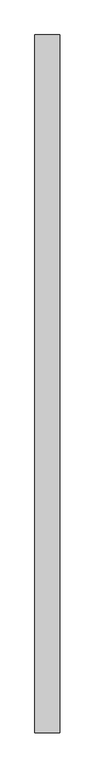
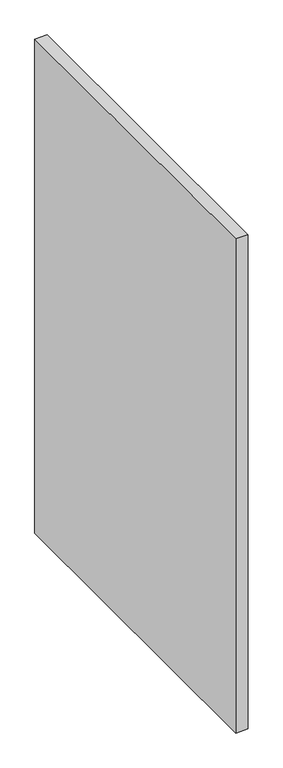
"""IFC4 building model written with IfcOpenShell, lengths in millimetres: proxy geometry, FOUNDATION^OPEN OFFICE 3_42x63 GALLERY WALL-PARTS SOLID."""

from ifc_helpers import new_model, si_unit, frame, origin, place, context, project, spatial, polyline, outline, extrude, source, transform, mapped, element, save


def generic_models_19d1f09c(model_context):
    return source(origin(), model_context, "Body", "SweptSolid", [
        extrude(outline(polyline([(0.0, 0.0), (0.0, 1066.8), (38.1, 1066.8), (38.1, 0.0), (0.0, 0.0)])), frame((0.0, 0.0, -1600.2), z_axis=(0.0, 0.0, 1.0), x_axis=(1.0, 0.0, 0.0)), (0.0, 0.0, 1.0), 1600.2),
    ])


if __name__ == "__main__":
    model = new_model("IFC4")
    model_context = context("Model", 3, world=origin())
    ifc_project = project(units=[si_unit("LENGTHUNIT", "METRE", prefix="MILLI")], contexts=[model_context])
    site = spatial("IfcSite", under=ifc_project)
    building = spatial("IfcBuilding", under=site)
    placement = place(None, origin())
    generic_models_shape = generic_models_19d1f09c(model_context)
    element("IfcBuildingElementProxy", 1, Name="FOUNDATION^OPEN OFFICE 3_42x63 GALLERY WALL-PARTS SOLID", ObjectType="FOUNDATION^OPEN OFFICE 3_42x63 GALLERY WALL-PARTS SOLID", at=placement, inside=building, context=model_context, shape_type="MappedRepresentation", body=[
        mapped(generic_models_shape, transform((0.0, 0.0, 0.0), x_axis=(1.0, 0.0, 0.0), y_axis=(0.0, 1.0, 0.0), z_axis=(0.0, 0.0, 1.0))),
    ])
    save(model, "model.ifc")
